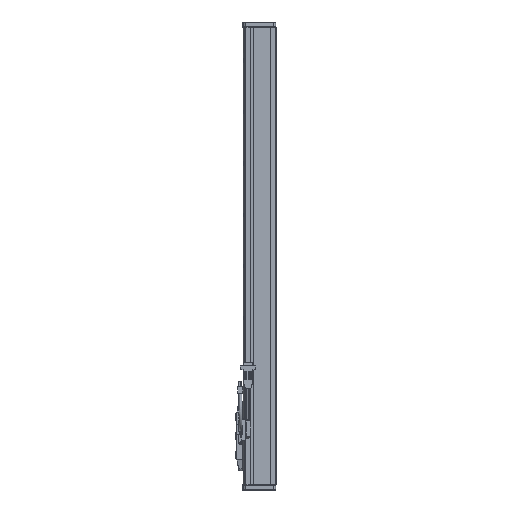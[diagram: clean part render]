
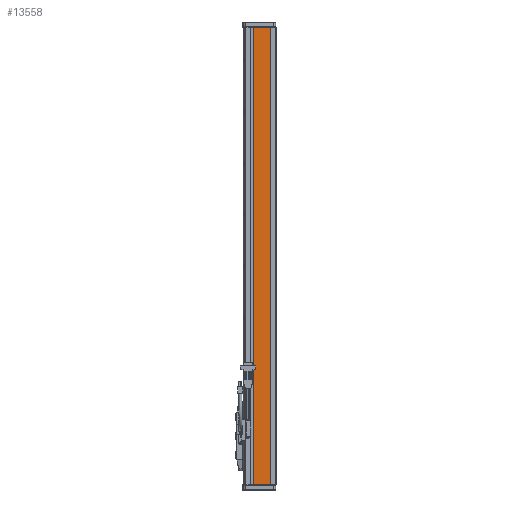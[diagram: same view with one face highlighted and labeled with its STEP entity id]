
A CAD part, left-side view. The second image highlights one B-rep face of the part: STEP entity #13558.
In plain terms, the highlighted planar face has unit normal (-1, 0, 0).
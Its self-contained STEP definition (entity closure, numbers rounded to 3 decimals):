
#144 = PLANE('',#145);
#145 = AXIS2_PLACEMENT_3D('',#146,#147,#148);
#146 = CARTESIAN_POINT('',(-36.5,59.6,890.));
#147 = DIRECTION('',(0.,0.,1.));
#148 = DIRECTION('',(1.,0.,-0.));
#809 = PLANE('',#810);
#810 = AXIS2_PLACEMENT_3D('',#811,#812,#813);
#811 = CARTESIAN_POINT('',(-36.5,59.6,0.));
#812 = DIRECTION('',(0.,0.,1.));
#813 = DIRECTION('',(1.,0.,-0.));
#8373 = VERTEX_POINT('',#8374);
#8374 = CARTESIAN_POINT('',(-40.5,43.6,890.));
#8388 = PLANE('',#8389);
#8389 = AXIS2_PLACEMENT_3D('',#8390,#8391,#8392);
#8390 = CARTESIAN_POINT('',(-40.,43.6,890.));
#8391 = DIRECTION('',(0.,1.,0.));
#8392 = DIRECTION('',(0.,-0.,1.));
#8400 = EDGE_CURVE('',#8373,#8401,#8403,.T.);
#8401 = VERTEX_POINT('',#8402);
#8402 = CARTESIAN_POINT('',(-40.5,11.,890.));
#8403 = SURFACE_CURVE('',#8404,(#8408,#8415),.PCURVE_S1.);
#8404 = LINE('',#8405,#8406);
#8405 = CARTESIAN_POINT('',(-40.5,19.,890.));
#8406 = VECTOR('',#8407,1.);
#8407 = DIRECTION('',(0.,-1.,0.));
#8408 = PCURVE('',#144,#8409);
#8409 = DEFINITIONAL_REPRESENTATION('',(#8410),#8414);
#8410 = LINE('',#8411,#8412);
#8411 = CARTESIAN_POINT('',(-4.,-40.6));
#8412 = VECTOR('',#8413,1.);
#8413 = DIRECTION('',(0.,-1.));
#8414 = ( GEOMETRIC_REPRESENTATION_CONTEXT(2) 
PARAMETRIC_REPRESENTATION_CONTEXT() REPRESENTATION_CONTEXT('2D SPACE',''
  ) );
#8415 = PCURVE('',#8416,#8421);
#8416 = PLANE('',#8417);
#8417 = AXIS2_PLACEMENT_3D('',#8418,#8419,#8420);
#8418 = CARTESIAN_POINT('',(-40.5,19.,890.));
#8419 = DIRECTION('',(1.,0.,-0.));
#8420 = DIRECTION('',(-0.,0.,-1.));
#8421 = DEFINITIONAL_REPRESENTATION('',(#8422),#8426);
#8422 = LINE('',#8423,#8424);
#8423 = CARTESIAN_POINT('',(0.,0.));
#8424 = VECTOR('',#8425,1.);
#8425 = DIRECTION('',(-0.,-1.));
#8426 = ( GEOMETRIC_REPRESENTATION_CONTEXT(2) 
PARAMETRIC_REPRESENTATION_CONTEXT() REPRESENTATION_CONTEXT('2D SPACE',''
  ) );
#8444 = PLANE('',#8445);
#8445 = AXIS2_PLACEMENT_3D('',#8446,#8447,#8448);
#8446 = CARTESIAN_POINT('',(-41.,10.5,890.));
#8447 = DIRECTION('',(0.707,-0.707,0.));
#8448 = DIRECTION('',(0.707,0.707,0.));
#9790 = VERTEX_POINT('',#9791);
#9791 = CARTESIAN_POINT('',(-40.5,11.,0.));
#9812 = EDGE_CURVE('',#9813,#9790,#9815,.T.);
#9813 = VERTEX_POINT('',#9814);
#9814 = CARTESIAN_POINT('',(-40.5,43.6,0.));
#9815 = SURFACE_CURVE('',#9816,(#9820,#9827),.PCURVE_S1.);
#9816 = LINE('',#9817,#9818);
#9817 = CARTESIAN_POINT('',(-40.5,19.,0.));
#9818 = VECTOR('',#9819,1.);
#9819 = DIRECTION('',(0.,-1.,0.));
#9820 = PCURVE('',#809,#9821);
#9821 = DEFINITIONAL_REPRESENTATION('',(#9822),#9826);
#9822 = LINE('',#9823,#9824);
#9823 = CARTESIAN_POINT('',(-4.,-40.6));
#9824 = VECTOR('',#9825,1.);
#9825 = DIRECTION('',(0.,-1.));
#9826 = ( GEOMETRIC_REPRESENTATION_CONTEXT(2) 
PARAMETRIC_REPRESENTATION_CONTEXT() REPRESENTATION_CONTEXT('2D SPACE',''
  ) );
#9827 = PCURVE('',#8416,#9828);
#9828 = DEFINITIONAL_REPRESENTATION('',(#9829),#9833);
#9829 = LINE('',#9830,#9831);
#9830 = CARTESIAN_POINT('',(890.,0.));
#9831 = VECTOR('',#9832,1.);
#9832 = DIRECTION('',(-0.,-1.));
#9833 = ( GEOMETRIC_REPRESENTATION_CONTEXT(2) 
PARAMETRIC_REPRESENTATION_CONTEXT() REPRESENTATION_CONTEXT('2D SPACE',''
  ) );
#11789 = EDGE_CURVE('',#8401,#9790,#11790,.T.);
#11790 = SURFACE_CURVE('',#11791,(#11795,#11802),.PCURVE_S1.);
#11791 = LINE('',#11792,#11793);
#11792 = CARTESIAN_POINT('',(-40.5,11.,890.));
#11793 = VECTOR('',#11794,1.);
#11794 = DIRECTION('',(-0.,-0.,-1.));
#11795 = PCURVE('',#8444,#11796);
#11796 = DEFINITIONAL_REPRESENTATION('',(#11797),#11801);
#11797 = LINE('',#11798,#11799);
#11798 = CARTESIAN_POINT('',(0.707,0.));
#11799 = VECTOR('',#11800,1.);
#11800 = DIRECTION('',(0.,-1.));
#11801 = ( GEOMETRIC_REPRESENTATION_CONTEXT(2) 
PARAMETRIC_REPRESENTATION_CONTEXT() REPRESENTATION_CONTEXT('2D SPACE',''
  ) );
#11802 = PCURVE('',#8416,#11803);
#11803 = DEFINITIONAL_REPRESENTATION('',(#11804),#11808);
#11804 = LINE('',#11805,#11806);
#11805 = CARTESIAN_POINT('',(-0.,-8.));
#11806 = VECTOR('',#11807,1.);
#11807 = DIRECTION('',(1.,-0.));
#11808 = ( GEOMETRIC_REPRESENTATION_CONTEXT(2) 
PARAMETRIC_REPRESENTATION_CONTEXT() REPRESENTATION_CONTEXT('2D SPACE',''
  ) );
#13558 = ADVANCED_FACE('',(#13559),#8416,.F.);
#13559 = FACE_BOUND('',#13560,.T.);
#13560 = EDGE_LOOP('',(#13561,#13562,#13563,#13564));
#13561 = ORIENTED_EDGE('',*,*,#9812,.T.);
#13562 = ORIENTED_EDGE('',*,*,#11789,.F.);
#13563 = ORIENTED_EDGE('',*,*,#8400,.F.);
#13564 = ORIENTED_EDGE('',*,*,#13565,.F.);
#13565 = EDGE_CURVE('',#9813,#8373,#13566,.T.);
#13566 = SURFACE_CURVE('',#13567,(#13571,#13578),.PCURVE_S1.);
#13567 = LINE('',#13568,#13569);
#13568 = CARTESIAN_POINT('',(-40.5,43.6,890.));
#13569 = VECTOR('',#13570,1.);
#13570 = DIRECTION('',(0.,0.,1.));
#13571 = PCURVE('',#8416,#13572);
#13572 = DEFINITIONAL_REPRESENTATION('',(#13573),#13577);
#13573 = LINE('',#13574,#13575);
#13574 = CARTESIAN_POINT('',(0.,24.6));
#13575 = VECTOR('',#13576,1.);
#13576 = DIRECTION('',(-1.,0.));
#13577 = ( GEOMETRIC_REPRESENTATION_CONTEXT(2) 
PARAMETRIC_REPRESENTATION_CONTEXT() REPRESENTATION_CONTEXT('2D SPACE',''
  ) );
#13578 = PCURVE('',#8388,#13579);
#13579 = DEFINITIONAL_REPRESENTATION('',(#13580),#13584);
#13580 = LINE('',#13581,#13582);
#13581 = CARTESIAN_POINT('',(0.,-0.5));
#13582 = VECTOR('',#13583,1.);
#13583 = DIRECTION('',(1.,0.));
#13584 = ( GEOMETRIC_REPRESENTATION_CONTEXT(2) 
PARAMETRIC_REPRESENTATION_CONTEXT() REPRESENTATION_CONTEXT('2D SPACE',''
  ) );
